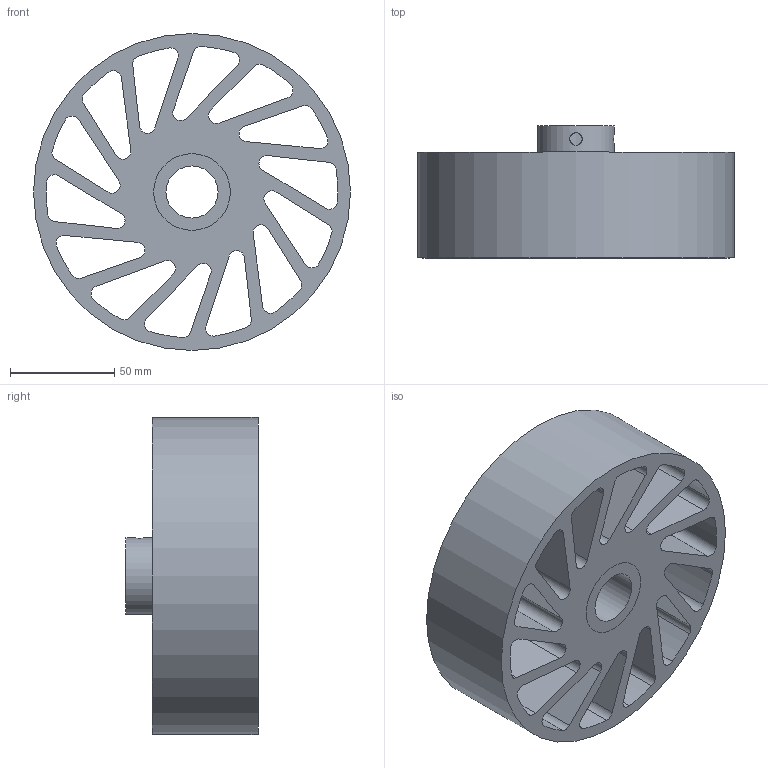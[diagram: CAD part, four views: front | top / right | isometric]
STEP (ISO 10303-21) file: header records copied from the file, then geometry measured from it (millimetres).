
FILE_DESCRIPTION(/* description */ (''),/* implementation_level */ '2;1');
FILE_NAME(/* name */ 'NCWM-630-XXX-YYY.stp',/* time_stamp */ '2023-02-02T16:52:15-06:00',/* author */ ('AG'),/* organization */ ('Meridian Laboratory'),/* preprocessor_version */ 'ST-DEVELOPER v18.1',/* originating_system */ 'Autodesk Inventor 2022',/* authorisation */ '');
FILE_SCHEMA (('AUTOMOTIVE_DESIGN { 1 0 10303 214 3 1 1 }'));
Length unit declared in the file: millimetre
Products named in the file (1): NCWM-540
Bounding box: 152.4 x 63.5 x 152.4 mm (x, y, z)
Volume: 501563.1 mm3; surface area: 135926.4 mm2
Topology: 2 solids, 2 shells, 94 faces, 276 edges, 186 vertices
Faces by surface type: cylinder 62, plane 32
Full cylindrical faces by diameter (mm): 6 x2, 25.025 x1, 36.83 x2, 152.4 x1
Entity records: 3516 total; most frequent: CARTESIAN_POINT 697, DIRECTION 576, ORIENTED_EDGE 552, EDGE_CURVE 276, AXIS2_PLACEMENT_3D 215, VERTEX_POINT 186, LINE 146, VECTOR 146
